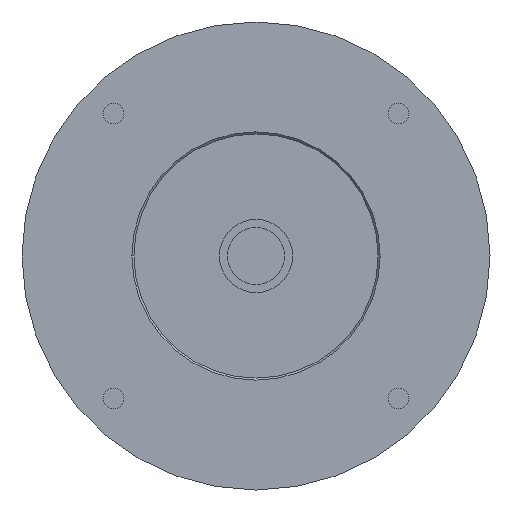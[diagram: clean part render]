
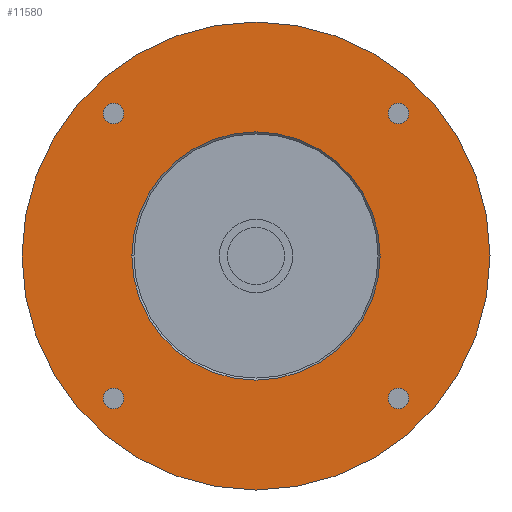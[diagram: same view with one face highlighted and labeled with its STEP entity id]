
A CAD part, left-side view. The second image highlights one B-rep face of the part: STEP entity #11580.
In plain terms, the highlighted planar face has unit normal (-1, 0, 0) as drawn and (0, 0, -1) by its records, which use the part's own axes.
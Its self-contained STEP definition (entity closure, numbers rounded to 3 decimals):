
#9090=CARTESIAN_POINT('',(0.,-57.5,-47.4));
#9100=VERTEX_POINT('',#9090);
#9150=CARTESIAN_POINT('',(0.,0.,
-47.4));
#9160=DIRECTION('',(0.,0.,-1.));
#9170=DIRECTION('',(0.,-1.,0.));
#9180=AXIS2_PLACEMENT_3D('',#9150,#9160,#9170);
#9190=CIRCLE('',#9180,57.5);
#9200=CARTESIAN_POINT('',(0.,57.5,-47.4));
#9210=VERTEX_POINT('',#9200);
#9220=EDGE_CURVE('',#9100,#9210,#9190,.T.);
#10390=CARTESIAN_POINT('',(35.002,32.502,-47.4));
#10400=VERTEX_POINT('',#10390);
#10430=CARTESIAN_POINT('',(35.002,35.002,-47.4));
#10440=DIRECTION('',(0.,0.,-1.));
#10450=DIRECTION('',(1.,0.,0.));
#10460=AXIS2_PLACEMENT_3D('',#10430,#10440,#10450);
#10470=CIRCLE('',#10460,2.5);
#10480=CARTESIAN_POINT('',(37.502,35.002,-47.4));
#10490=VERTEX_POINT('',#10480);
#10500=EDGE_CURVE('',#10490,#10400,#10470,.T.);
#10520=CARTESIAN_POINT('',(35.002,37.502,-47.4));
#10530=VERTEX_POINT('',#10520);
#10540=EDGE_CURVE('',#10530,#10490,#10470,.T.);
#10660=CARTESIAN_POINT('',(0.,0.,
-47.4));
#10670=DIRECTION('',(0.,0.,-1.));
#10680=DIRECTION('',(0.,1.,0.));
#10690=AXIS2_PLACEMENT_3D('',#10660,#10670,#10680);
#10700=PLANE('',#10690);
#10710=CARTESIAN_POINT('',(0.,0.,
-47.4));
#10720=DIRECTION('',(0.,0.,-1.));
#10730=DIRECTION('',(0.,1.,0.));
#10740=AXIS2_PLACEMENT_3D('',#10710,#10720,#10730);
#10750=CIRCLE('',#10740,30.5);
#10760=CARTESIAN_POINT('',(0.,30.5,-47.4));
#10770=VERTEX_POINT('',#10760);
#10780=CARTESIAN_POINT('',(30.5,0.,-47.4));
#10790=VERTEX_POINT('',#10780);
#10800=EDGE_CURVE('',#10770,#10790,#10750,.T.);
#10810=ORIENTED_EDGE('',*,*,#10800,.F.);
#10820=CARTESIAN_POINT('',(-30.5,0.,-47.4));
#10830=VERTEX_POINT('',#10820);
#10840=EDGE_CURVE('',#10790,#10830,#10750,.T.);
#10850=ORIENTED_EDGE('',*,*,#10840,.F.);
#10860=EDGE_CURVE('',#10830,#10770,#10750,.T.);
#10870=ORIENTED_EDGE('',*,*,#10860,.F.);
#10880=EDGE_LOOP('',(#10870,#10850,#10810));
#10890=FACE_BOUND('',#10880,.T.);
#10900=CARTESIAN_POINT('',(-35.002,-35.002,-47.4));
#10910=DIRECTION('',(0.,0.,-1.));
#10920=DIRECTION('',(1.,0.,0.));
#10930=AXIS2_PLACEMENT_3D('',#10900,#10910,#10920);
#10940=CIRCLE('',#10930,2.5);
#10950=CARTESIAN_POINT('',(-32.502,-35.002,-47.4));
#10960=VERTEX_POINT('',#10950);
#10970=CARTESIAN_POINT('',(-35.002,-37.502,-47.4));
#10980=VERTEX_POINT('',#10970);
#10990=EDGE_CURVE('',#10960,#10980,#10940,.T.);
#11000=ORIENTED_EDGE('',*,*,#10990,.F.);
#11010=CARTESIAN_POINT('',(-35.002,-32.502,-47.4));
#11020=VERTEX_POINT('',#11010);
#11030=EDGE_CURVE('',#10980,#11020,#10940,.T.);
#11040=ORIENTED_EDGE('',*,*,#11030,.F.);
#11050=EDGE_CURVE('',#11020,#10960,#10940,.T.);
#11060=ORIENTED_EDGE('',*,*,#11050,.F.);
#11070=EDGE_LOOP('',(#11060,#11040,#11000));
#11080=FACE_BOUND('',#11070,.T.);
#11090=CARTESIAN_POINT('',(-35.002,35.002,-47.4));
#11100=DIRECTION('',(0.,0.,-1.));
#11110=DIRECTION('',(1.,0.,0.));
#11120=AXIS2_PLACEMENT_3D('',#11090,#11100,#11110);
#11130=CIRCLE('',#11120,2.5);
#11140=CARTESIAN_POINT('',(-32.502,35.002,-47.4));
#11150=VERTEX_POINT('',#11140);
#11160=CARTESIAN_POINT('',(-35.002,32.502,-47.4));
#11170=VERTEX_POINT('',#11160);
#11180=EDGE_CURVE('',#11150,#11170,#11130,.T.);
#11190=ORIENTED_EDGE('',*,*,#11180,.F.);
#11200=CARTESIAN_POINT('',(-35.002,37.502,-47.4));
#11210=VERTEX_POINT('',#11200);
#11220=EDGE_CURVE('',#11170,#11210,#11130,.T.);
#11230=ORIENTED_EDGE('',*,*,#11220,.F.);
#11240=EDGE_CURVE('',#11210,#11150,#11130,.T.);
#11250=ORIENTED_EDGE('',*,*,#11240,.F.);
#11260=EDGE_LOOP('',(#11250,#11230,#11190));
#11270=FACE_BOUND('',#11260,.T.);
#11280=ORIENTED_EDGE('',*,*,#10500,.F.);
#11290=EDGE_CURVE('',#10400,#10530,#10470,.T.);
#11300=ORIENTED_EDGE('',*,*,#11290,.F.);
#11310=ORIENTED_EDGE('',*,*,#10540,.F.);
#11320=EDGE_LOOP('',(#11310,#11300,#11280));
#11330=FACE_BOUND('',#11320,.T.);
#11340=CARTESIAN_POINT('',(35.002,-35.002,-47.4));
#11350=DIRECTION('',(0.,0.,-1.));
#11360=DIRECTION('',(1.,0.,0.));
#11370=AXIS2_PLACEMENT_3D('',#11340,#11350,#11360);
#11380=CIRCLE('',#11370,2.5);
#11390=CARTESIAN_POINT('',(37.502,-35.002,-47.4));
#11400=VERTEX_POINT('',#11390);
#11410=CARTESIAN_POINT('',(35.002,-37.502,-47.4));
#11420=VERTEX_POINT('',#11410);
#11430=EDGE_CURVE('',#11400,#11420,#11380,.T.);
#11440=ORIENTED_EDGE('',*,*,#11430,.F.);
#11450=CARTESIAN_POINT('',(35.002,-32.502,-47.4));
#11460=VERTEX_POINT('',#11450);
#11470=EDGE_CURVE('',#11420,#11460,#11380,.T.);
#11480=ORIENTED_EDGE('',*,*,#11470,.F.);
#11490=EDGE_CURVE('',#11460,#11400,#11380,.T.);
#11500=ORIENTED_EDGE('',*,*,#11490,.F.);
#11510=EDGE_LOOP('',(#11500,#11480,#11440));
#11520=FACE_BOUND('',#11510,.T.);
#11530=ORIENTED_EDGE('',*,*,#9220,.T.);
#11540=EDGE_CURVE('',#9210,#9100,#9190,.T.);
#11550=ORIENTED_EDGE('',*,*,#11540,.T.);
#11560=EDGE_LOOP('',(#11550,#11530));
#11570=FACE_OUTER_BOUND('',#11560,.T.);
#11580=ADVANCED_FACE('',(#10890,#11080,#11270,#11330,#11520,#11570),
#10700,.T.);
